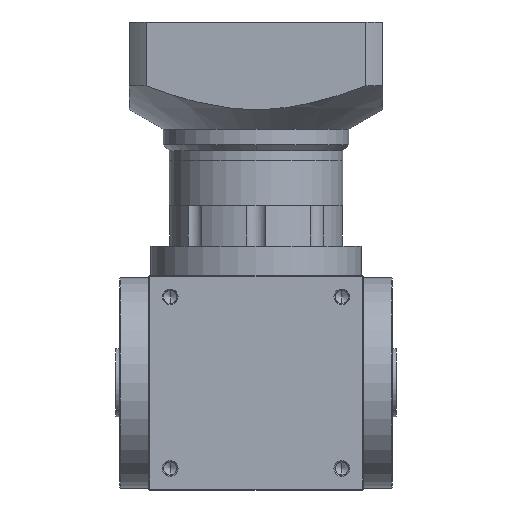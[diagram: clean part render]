
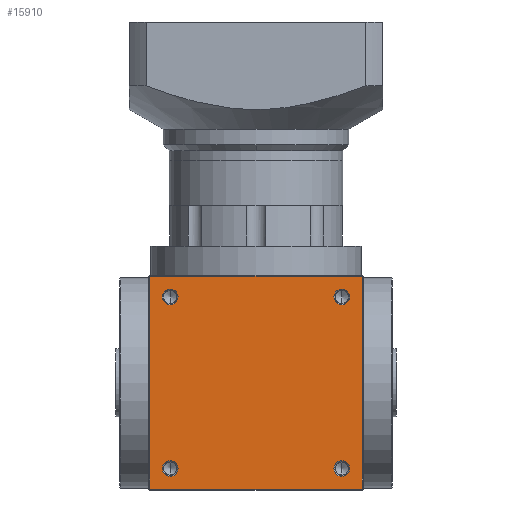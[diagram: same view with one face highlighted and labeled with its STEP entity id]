
A CAD part, front view. The second image highlights one B-rep face of the part: STEP entity #15910.
In plain terms, the highlighted planar face has unit normal (0, -1, 0).
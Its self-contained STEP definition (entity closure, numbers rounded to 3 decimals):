
#151 = CARTESIAN_POINT ( 'NONE',  ( 39.975, -55., 99. ) ) ;
#299 = DIRECTION ( 'NONE',  ( 0., -1., 0. ) ) ;
#1013 = DIRECTION ( 'NONE',  ( -1., 0., 0. ) ) ;
#1618 = CARTESIAN_POINT ( 'NONE',  ( 48.025, -55., 99. ) ) ;
#2364 = FACE_OUTER_BOUND ( 'NONE', #20901, .T. ) ;
#2474 = FACE_BOUND ( 'NONE', #6570, .T. ) ;
#2545 = FACE_BOUND ( 'NONE', #17327, .T. ) ;
#2751 = FACE_BOUND ( 'NONE', #23739, .T. ) ;
#3167 = CARTESIAN_POINT ( 'NONE',  ( -54.5, -55., 110. ) ) ;
#3208 = ORIENTED_EDGE ( 'NONE', *, *, #11897, .F. ) ;
#3209 = ORIENTED_EDGE ( 'NONE', *, *, #39773, .F. ) ;
#3375 = FACE_BOUND ( 'NONE', #20586, .T. ) ;
#3742 = EDGE_CURVE ( 'NONE', #28978, #8901, #36159, .T. ) ;
#4303 = CARTESIAN_POINT ( 'NONE',  ( 54.5, -55., 110. ) ) ;
#5061 = DIRECTION ( 'NONE',  ( 1., 0., 0. ) ) ;
#5079 = DIRECTION ( 'NONE',  ( 0., -1., 0. ) ) ;
#5134 = CARTESIAN_POINT ( 'NONE',  ( 44., -55., 11. ) ) ;
#5918 = CARTESIAN_POINT ( 'NONE',  ( -55., -55., 109.5 ) ) ;
#6430 = DIRECTION ( 'NONE',  ( 1., 0., 0. ) ) ;
#6510 = LINE ( 'NONE', #4303, #6579 ) ;
#6570 = EDGE_LOOP ( 'NONE', ( #8854, #3209 ) ) ;
#6579 = VECTOR ( 'NONE', #29732, 1000. ) ;
#6679 = LINE ( 'NONE', #17911, #7778 ) ;
#6686 = ORIENTED_EDGE ( 'NONE', *, *, #40851, .F. ) ;
#7383 = DIRECTION ( 'NONE',  ( 1., 0., 0. ) ) ;
#7432 = DIRECTION ( 'NONE',  ( 0., -1., 0. ) ) ;
#7496 = CARTESIAN_POINT ( 'NONE',  ( 44., -55., 11. ) ) ;
#7778 = VECTOR ( 'NONE', #1013, 1000. ) ;
#8154 = EDGE_CURVE ( 'NONE', #10175, #29667, #37152, .T. ) ;
#8164 = AXIS2_PLACEMENT_3D ( 'NONE', #24288, #24549, #24009 ) ;
#8539 = ORIENTED_EDGE ( 'NONE', *, *, #26460, .F. ) ;
#8606 = AXIS2_PLACEMENT_3D ( 'NONE', #5134, #5079, #5061 ) ;
#8854 = ORIENTED_EDGE ( 'NONE', *, *, #3742, .F. ) ;
#8901 = VERTEX_POINT ( 'NONE', #36454 ) ;
#9642 = LINE ( 'NONE', #5918, #10792 ) ;
#10175 = VERTEX_POINT ( 'NONE', #1618 ) ;
#10499 = DIRECTION ( 'NONE',  ( 0., 0., 1. ) ) ;
#10701 = VERTEX_POINT ( 'NONE', #41186 ) ;
#10792 = VECTOR ( 'NONE', #6430, 1000. ) ;
#10903 = AXIS2_PLACEMENT_3D ( 'NONE', #7496, #7432, #7383 ) ;
#11294 = CARTESIAN_POINT ( 'NONE',  ( -39.975, -55., 11. ) ) ;
#11897 = EDGE_CURVE ( 'NONE', #10701, #14495, #37696, .T. ) ;
#12217 = EDGE_CURVE ( 'NONE', #50980, #48309, #32766, .T. ) ;
#12523 = DIRECTION ( 'NONE',  ( 0., -1., 0. ) ) ;
#12855 = CARTESIAN_POINT ( 'NONE',  ( -48.025, -55., 99. ) ) ;
#13560 = CIRCLE ( 'NONE', #8606, 4.025 ) ;
#13634 = EDGE_CURVE ( 'NONE', #48309, #45373, #9642, .T. ) ;
#14495 = VERTEX_POINT ( 'NONE', #33420 ) ;
#14931 = CARTESIAN_POINT ( 'NONE',  ( -44., -55., 99. ) ) ;
#15077 = AXIS2_PLACEMENT_3D ( 'NONE', #48997, #48943, #48751 ) ;
#15423 = EDGE_CURVE ( 'NONE', #14495, #10701, #13560, .T. ) ;
#15620 = ORIENTED_EDGE ( 'NONE', *, *, #13634, .F. ) ;
#15910 = ADVANCED_FACE ( 'NONE', ( #2751, #3375, #2545, #2474, #2364 ), #47904, .F. ) ;
#17327 = EDGE_LOOP ( 'NONE', ( #6686, #29926 ) ) ;
#17911 = CARTESIAN_POINT ( 'NONE',  ( -55., -55., 0.5 ) ) ;
#19156 = DIRECTION ( 'NONE',  ( 0., -1., 0. ) ) ;
#19233 = DIRECTION ( 'NONE',  ( 1., 0., 0. ) ) ;
#20143 = CARTESIAN_POINT ( 'NONE',  ( -54.5, -55., 0.5 ) ) ;
#20471 = CARTESIAN_POINT ( 'NONE',  ( -39.975, -55., 99. ) ) ;
#20586 = EDGE_LOOP ( 'NONE', ( #39236, #50211 ) ) ;
#20901 = EDGE_LOOP ( 'NONE', ( #15620, #20922, #38101, #8539 ) ) ;
#20922 = ORIENTED_EDGE ( 'NONE', *, *, #12217, .F. ) ;
#21134 = AXIS2_PLACEMENT_3D ( 'NONE', #42787, #19156, #46516 ) ;
#23333 = CIRCLE ( 'NONE', #38865, 4.025 ) ;
#23739 = EDGE_LOOP ( 'NONE', ( #41165, #3208 ) ) ;
#24009 = DIRECTION ( 'NONE',  ( 1., 0., 0. ) ) ;
#24288 = CARTESIAN_POINT ( 'NONE',  ( -44., -55., 11. ) ) ;
#24549 = DIRECTION ( 'NONE',  ( 0., -1., 0. ) ) ;
#25124 = VERTEX_POINT ( 'NONE', #12855 ) ;
#25645 = CARTESIAN_POINT ( 'NONE',  ( -44., -55., 11. ) ) ;
#26460 = EDGE_CURVE ( 'NONE', #45373, #49409, #6510, .T. ) ;
#26530 = EDGE_CURVE ( 'NONE', #49409, #50980, #6679, .T. ) ;
#27059 = AXIS2_PLACEMENT_3D ( 'NONE', #37013, #12523, #40784 ) ;
#27440 = AXIS2_PLACEMENT_3D ( 'NONE', #29233, #38225, #35751 ) ;
#28082 = EDGE_CURVE ( 'NONE', #29667, #10175, #49169, .T. ) ;
#28978 = VERTEX_POINT ( 'NONE', #11294 ) ;
#29233 = CARTESIAN_POINT ( 'NONE',  ( 44., -55., 99. ) ) ;
#29667 = VERTEX_POINT ( 'NONE', #151 ) ;
#29732 = DIRECTION ( 'NONE',  ( 0., 0., -1. ) ) ;
#29756 = DIRECTION ( 'NONE',  ( 1., 0., 0. ) ) ;
#29926 = ORIENTED_EDGE ( 'NONE', *, *, #39078, .F. ) ;
#32480 = VECTOR ( 'NONE', #10499, 1000. ) ;
#32533 = AXIS2_PLACEMENT_3D ( 'NONE', #25645, #299, #29756 ) ;
#32766 = LINE ( 'NONE', #3167, #32480 ) ;
#33420 = CARTESIAN_POINT ( 'NONE',  ( 48.025, -55., 11. ) ) ;
#35751 = DIRECTION ( 'NONE',  ( 1., 0., 0. ) ) ;
#36159 = CIRCLE ( 'NONE', #8164, 4.025 ) ;
#36454 = CARTESIAN_POINT ( 'NONE',  ( -48.025, -55., 11. ) ) ;
#37013 = CARTESIAN_POINT ( 'NONE',  ( 44., -55., 99. ) ) ;
#37152 = CIRCLE ( 'NONE', #27440, 4.025 ) ;
#37696 = CIRCLE ( 'NONE', #10903, 4.025 ) ;
#38101 = ORIENTED_EDGE ( 'NONE', *, *, #26530, .F. ) ;
#38225 = DIRECTION ( 'NONE',  ( 0., -1., 0. ) ) ;
#38865 = AXIS2_PLACEMENT_3D ( 'NONE', #14931, #42865, #19233 ) ;
#39078 = EDGE_CURVE ( 'NONE', #25124, #41056, #51742, .T. ) ;
#39236 = ORIENTED_EDGE ( 'NONE', *, *, #8154, .F. ) ;
#39773 = EDGE_CURVE ( 'NONE', #8901, #28978, #42572, .T. ) ;
#40784 = DIRECTION ( 'NONE',  ( 1., 0., 0. ) ) ;
#40851 = EDGE_CURVE ( 'NONE', #41056, #25124, #23333, .T. ) ;
#41056 = VERTEX_POINT ( 'NONE', #20471 ) ;
#41165 = ORIENTED_EDGE ( 'NONE', *, *, #15423, .F. ) ;
#41186 = CARTESIAN_POINT ( 'NONE',  ( 39.975, -55., 11. ) ) ;
#42572 = CIRCLE ( 'NONE', #32533, 4.025 ) ;
#42787 = CARTESIAN_POINT ( 'NONE',  ( -44., -55., 99. ) ) ;
#42865 = DIRECTION ( 'NONE',  ( 0., -1., 0. ) ) ;
#44519 = CARTESIAN_POINT ( 'NONE',  ( -54.5, -55., 109.5 ) ) ;
#44718 = CARTESIAN_POINT ( 'NONE',  ( 54.5, -55., 0.5 ) ) ;
#45169 = CARTESIAN_POINT ( 'NONE',  ( 54.5, -55., 109.5 ) ) ;
#45373 = VERTEX_POINT ( 'NONE', #45169 ) ;
#46516 = DIRECTION ( 'NONE',  ( 1., 0., 0. ) ) ;
#47904 = PLANE ( 'NONE',  #15077 ) ;
#48309 = VERTEX_POINT ( 'NONE', #44519 ) ;
#48751 = DIRECTION ( 'NONE',  ( 0., 0., 1. ) ) ;
#48943 = DIRECTION ( 'NONE',  ( 0., 1., 0. ) ) ;
#48997 = CARTESIAN_POINT ( 'NONE',  ( -55., -55., 110. ) ) ;
#49169 = CIRCLE ( 'NONE', #27059, 4.025 ) ;
#49409 = VERTEX_POINT ( 'NONE', #44718 ) ;
#50211 = ORIENTED_EDGE ( 'NONE', *, *, #28082, .F. ) ;
#50980 = VERTEX_POINT ( 'NONE', #20143 ) ;
#51742 = CIRCLE ( 'NONE', #21134, 4.025 ) ;
